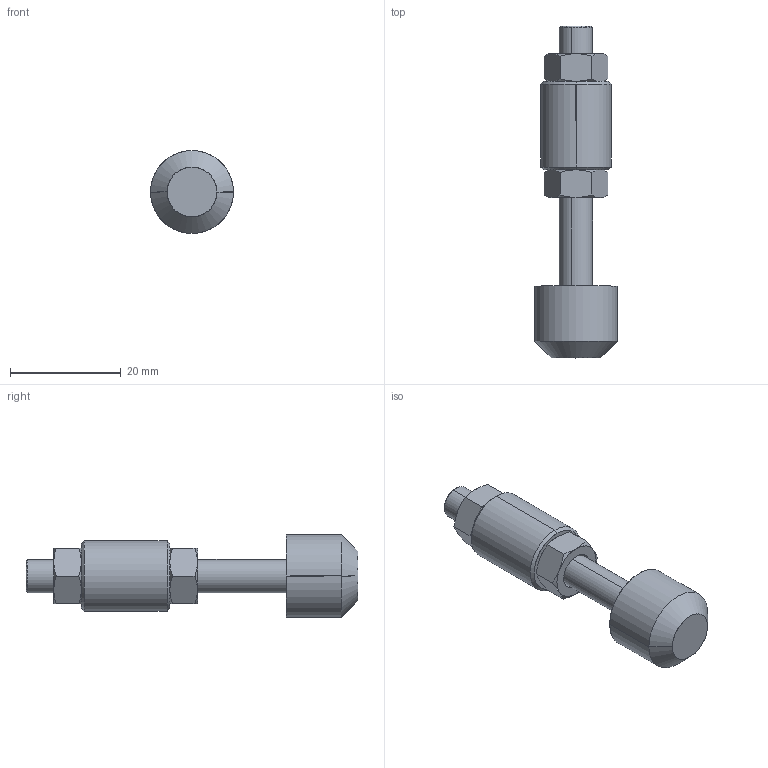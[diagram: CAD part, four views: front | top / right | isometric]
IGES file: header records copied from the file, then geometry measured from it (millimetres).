
Start section: SolidWorks IGES file using analytic representation for surfaces
Global section: file name: C:\Projetos\Ponteiras\BRB\BRB-M6.IGS; native system: SolidWorks 2011; preprocessor: SolidWorks 2011; author: Usuario; date: 110523.131725; units: millimetre
Bounding box: 15 x 60 x 15 mm (x, y, z)
Surface area: 3843.4 mm2 (no closed solid volume)
Topology: 0 solids, 0 shells, 84 faces, 1048 edges, 1046 vertices
Faces by surface type: revolution 62, bspline 22
